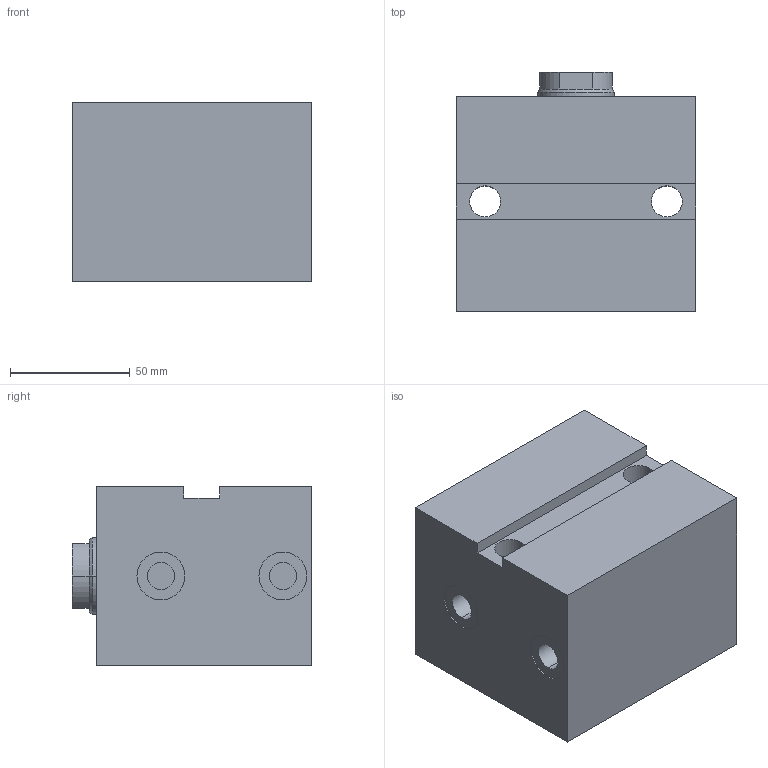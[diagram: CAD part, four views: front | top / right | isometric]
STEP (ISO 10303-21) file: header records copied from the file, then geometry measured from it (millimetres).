
FILE_DESCRIPTION (( 'STEP AP203' ), '1' );
FILE_NAME ('GERMA_Blockzylinder_602-050-025.STEP', '2015-08-22T18:34:04', ( '' ), ( '' ), 'SwSTEP 2.0', 'SolidWorks 2015', '' );
FILE_SCHEMA (( 'CONFIG_CONTROL_DESIGN' ));
Length unit declared in the file: millimetre
Products named in the file (3): Kolben 60x-050_Kolben DU.50-Hub25-IG; GH-600-050_GH-602-050-025; GERMA_Blockzylinder_602-050-025
Assembly tree (2 placements, depth 2):
  GERMA_Blockzylinder_602-050-025
    GH-600-050_GH-602-050-025
    Kolben 60x-050_Kolben DU.50-Hub25-IG
Bounding box: 100 x 100 x 75 mm (x, y, z)
Volume: 614109.2 mm3; surface area: 82733.3 mm2
Topology: 2 solids, 2 shells, 73 faces, 160 edges, 98 vertices
Faces by surface type: cylinder 33, plane 26, cone 14
Entity records: 2286 total; most frequent: DIRECTION 387, CARTESIAN_POINT 330, ORIENTED_EDGE 308, AXIS2_PLACEMENT_3D 155, EDGE_CURVE 154, VERTEX_POINT 98, EDGE_LOOP 90, LINE 77
